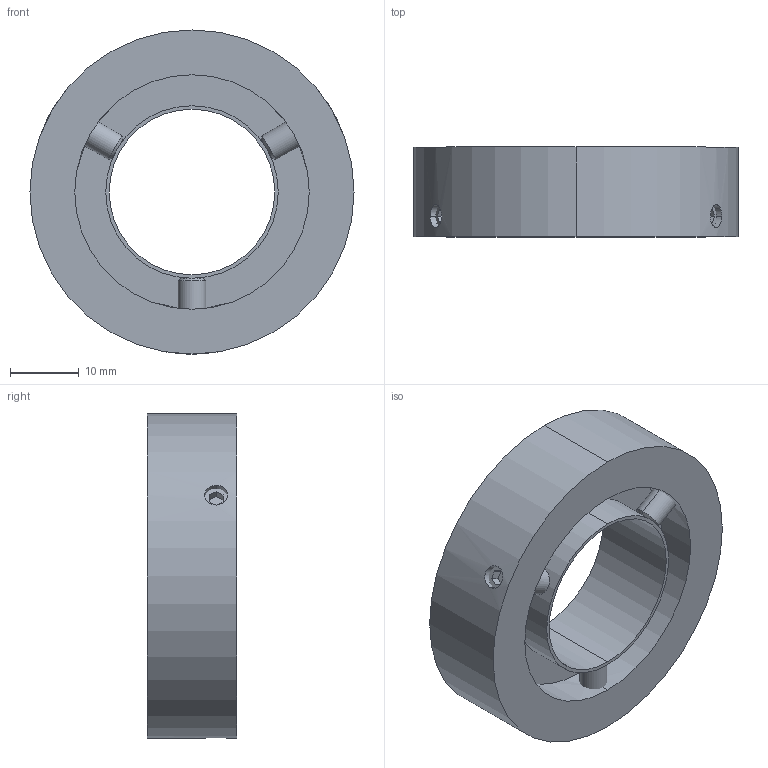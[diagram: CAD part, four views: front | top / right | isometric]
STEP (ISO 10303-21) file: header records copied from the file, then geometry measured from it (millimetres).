
FILE_DESCRIPTION (( 'STEP AP214' ), '1' );
FILE_NAME ('BA240.STEP', '2026-01-16T10:38:49', ( '' ), ( '' ), 'SwSTEP 2.0', 'SolidWorks 2024', '' );
FILE_SCHEMA (( 'AUTOMOTIVE_DESIGN' ));
Length unit declared in the file: millimetre
Products named in the file (1): BA240
Bounding box: 47 x 13 x 47 mm (x, y, z)
Volume: 13909.3 mm3; surface area: 10799.2 mm2
Topology: 5 solids, 5 shells, 86 faces, 190 edges, 120 vertices
Faces by surface type: plane 36, cylinder 30, cone 12, torus 8
Entity records: 3531 total; most frequent: CARTESIAN_POINT 719, DIRECTION 424, ORIENTED_EDGE 380, EDGE_CURVE 190, AXIS2_PLACEMENT_3D 163, VERTEX_POINT 120, EDGE_LOOP 102, VECTOR 98
